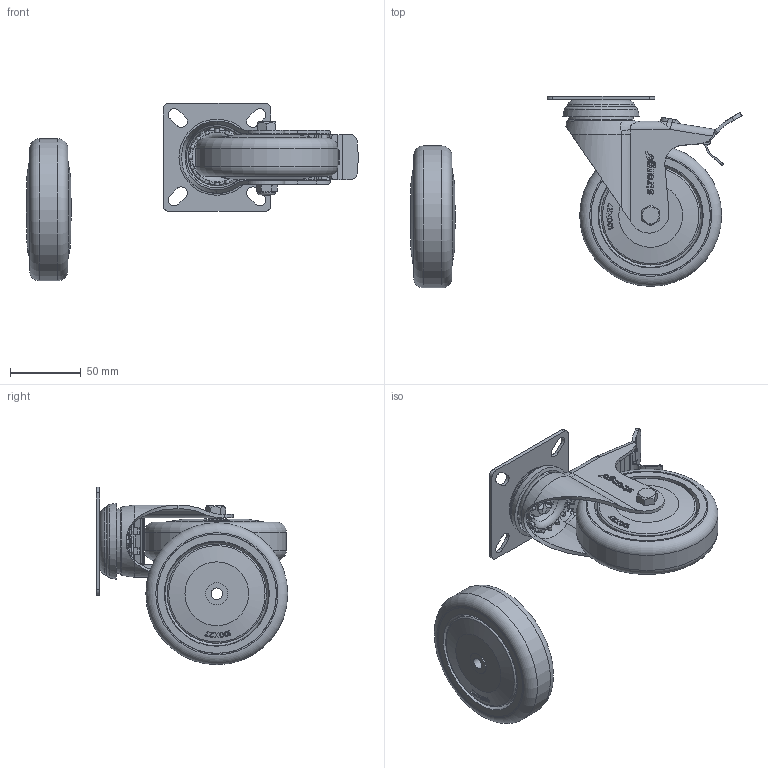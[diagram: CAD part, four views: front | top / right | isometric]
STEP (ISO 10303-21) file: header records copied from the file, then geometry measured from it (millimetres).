
FILE_DESCRIPTION(('STEP AP203'),'1');
FILE_NAME('E:/Pomoc/Strongo/344h39J100rZPE.stp',' ',(' '),(' '),'XStep 1.0',' ',' ');
FILE_SCHEMA(('CONFIG_CONTROL_DESIGN'));
Length unit declared in the file: metre
Products named in the file (3): Assembly114; Assembly115; Next assembly relationship
Bounding box: 233.92 x 135 x 125 mm (x, y, z)
Volume: 405489.1 mm3; surface area: 279931.4 mm2
Topology: 128 solids, 128 shells, 4161 faces, 11615 edges, 7652 vertices
Faces by surface type: plane 2889, cylinder 677, torus 219, cone 199, sphere 98, bspline 79
Full cylindrical faces by diameter (mm): 2.076 x4, 4.014 x2, 5.85 x2, 7 x1, 7.8 x2, 8 x17, 8.2 x4, 8.3 x4, 12 x8, 12.2 x2, 12.3 x2, 12.5 x1, 14.3 x4, 15.6 x4, 16.5 x4, 18 x4, 22 x2, 26 x4, 29 x4, 32 x6, 66.6 x4, 70 x4, 84 x2, 100 x2
Entity records: 69775 total; most frequent: CARTESIAN_POINT 21939, ORIENTED_EDGE 10208, DIRECTION 9159, EDGE_CURVE 5104, LINE 3659, VECTOR 3659, VERTEX_POINT 3411, AXIS2_PLACEMENT_3D 2750
